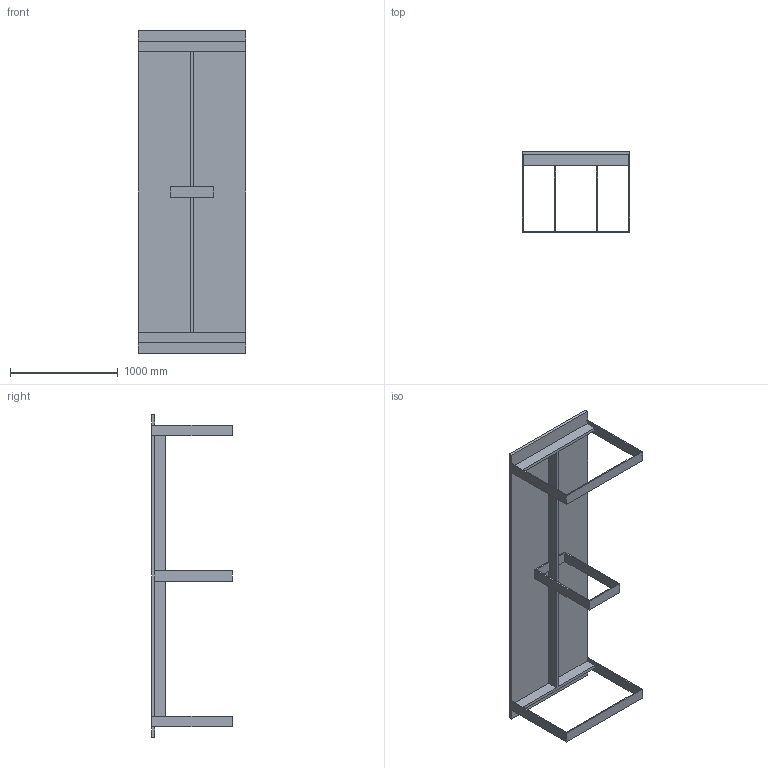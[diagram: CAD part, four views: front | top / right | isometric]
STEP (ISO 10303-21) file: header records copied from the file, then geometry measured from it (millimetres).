
FILE_DESCRIPTION (( 'STEP AP203' ), '1' );
FILE_NAME ('Haag 3000x1000x750.STEP', '2019-04-02T14:40:45', ( '' ), ( '' ), 'SwSTEP 2.0', 'SolidWorks 2019', '' );
FILE_SCHEMA (( 'CONFIG_CONTROL_DESIGN' ));
Length unit declared in the file: millimetre
Products named in the file (1): Haag 3000x1000x750
Bounding box: 1000 x 750 x 3000 mm (x, y, z)
Volume: 110900000 mm3; surface area: 9224026.5 mm2
Topology: 4 solids, 4 shells, 83 faces, 228 edges, 152 vertices
Faces by surface type: plane 75, cylinder 8
Entity records: 2681 total; most frequent: CARTESIAN_POINT 464, ORIENTED_EDGE 456, DIRECTION 412, EDGE_CURVE 228, LINE 212, VECTOR 212, VERTEX_POINT 152, AXIS2_PLACEMENT_3D 100
